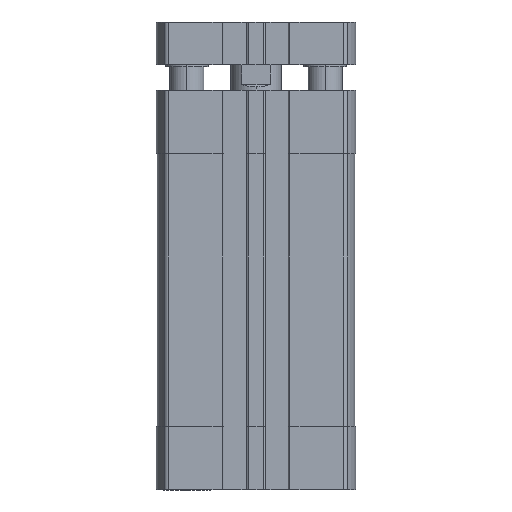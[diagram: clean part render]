
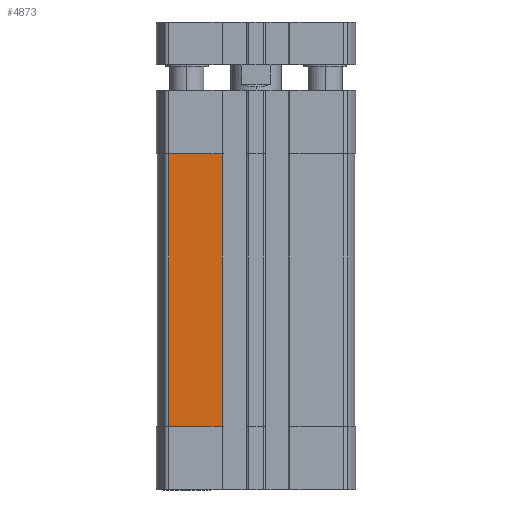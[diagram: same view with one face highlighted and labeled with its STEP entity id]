
A CAD part, front view. The second image highlights one B-rep face of the part: STEP entity #4873.
In plain terms, the highlighted planar face has unit normal (0, -1, 0) as drawn and (-1, 0, 0) by its records, which use the part's own axes.
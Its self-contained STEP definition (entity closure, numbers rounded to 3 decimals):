
#878 = VERTEX_POINT ( 'NONE', #6221 ) ;
#1511 = CARTESIAN_POINT ( 'NONE',  ( -23.25, 0., -15. ) ) ;
#1744 = CARTESIAN_POINT ( 'NONE',  ( -23.25, 20.543, -79. ) ) ;
#2229 = EDGE_LOOP ( 'NONE', ( #9064, #14346, #6637, #8603 ) ) ;
#2445 = VECTOR ( 'NONE', #22800, 1000. ) ;
#3857 = CARTESIAN_POINT ( 'NONE',  ( -23.25, 7.95, -15. ) ) ;
#4326 = EDGE_CURVE ( 'NONE', #4527, #878, #7224, .T. ) ;
#4527 = VERTEX_POINT ( 'NONE', #3857 ) ;
#4683 = CARTESIAN_POINT ( 'NONE',  ( -23.25, 20.543, -79. ) ) ;
#4873 = ADVANCED_FACE ( 'NONE', ( #18043 ), #15357, .T. ) ;
#6152 = LINE ( 'NONE', #1744, #8102 ) ;
#6221 = CARTESIAN_POINT ( 'NONE',  ( -23.25, 20.543, -15. ) ) ;
#6390 = CARTESIAN_POINT ( 'NONE',  ( -23.25, 20.543, -79. ) ) ;
#6529 = VECTOR ( 'NONE', #21187, 1000. ) ;
#6637 = ORIENTED_EDGE ( 'NONE', *, *, #4326, .T. ) ;
#6779 = CARTESIAN_POINT ( 'NONE',  ( -23.25, 7.95, -79. ) ) ;
#7224 = LINE ( 'NONE', #1511, #2445 ) ;
#7357 = LINE ( 'NONE', #18331, #8196 ) ;
#7540 = VERTEX_POINT ( 'NONE', #14627 ) ;
#7655 = LINE ( 'NONE', #6779, #6529 ) ;
#8102 = VECTOR ( 'NONE', #14211, 1000. ) ;
#8196 = VECTOR ( 'NONE', #18252, 1000. ) ;
#8362 = DIRECTION ( 'NONE',  ( 0., 0., 1. ) ) ;
#8603 = ORIENTED_EDGE ( 'NONE', *, *, #21216, .T. ) ;
#9064 = ORIENTED_EDGE ( 'NONE', *, *, #22994, .T. ) ;
#10083 = DIRECTION ( 'NONE',  ( -1., 0., 0. ) ) ;
#14211 = DIRECTION ( 'NONE',  ( 0., 0., -1. ) ) ;
#14346 = ORIENTED_EDGE ( 'NONE', *, *, #18977, .F. ) ;
#14627 = CARTESIAN_POINT ( 'NONE',  ( -23.25, 7.95, -79. ) ) ;
#15357 = PLANE ( 'NONE',  #22195 ) ;
#18043 = FACE_OUTER_BOUND ( 'NONE', #2229, .T. ) ;
#18252 = DIRECTION ( 'NONE',  ( 0., -1., 0. ) ) ;
#18331 = CARTESIAN_POINT ( 'NONE',  ( -23.25, 20.543, -79. ) ) ;
#18899 = VERTEX_POINT ( 'NONE', #6390 ) ;
#18977 = EDGE_CURVE ( 'NONE', #4527, #7540, #7655, .T. ) ;
#21187 = DIRECTION ( 'NONE',  ( 0., 0., -1. ) ) ;
#21216 = EDGE_CURVE ( 'NONE', #878, #18899, #6152, .T. ) ;
#22195 = AXIS2_PLACEMENT_3D ( 'NONE', #4683, #10083, #8362 ) ;
#22800 = DIRECTION ( 'NONE',  ( 0., 1., 0. ) ) ;
#22994 = EDGE_CURVE ( 'NONE', #18899, #7540, #7357, .T. ) ;
